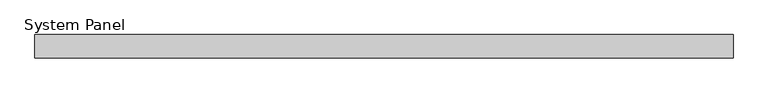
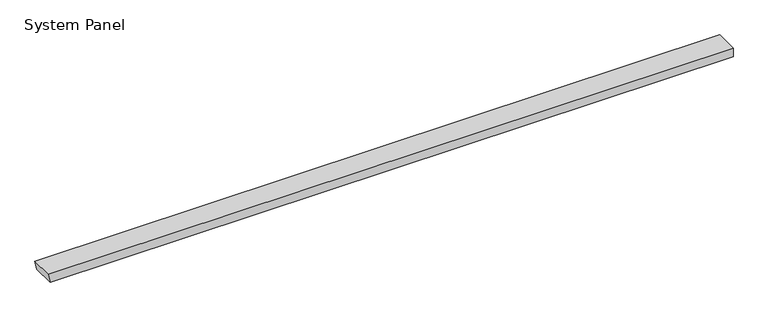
"""IFC4 building model written with IfcOpenShell, lengths in millimetres: plate geometry, System Panel : Equitilt 200mm Horizontal - Plain RHEA - EPS-FR."""

from ifc_helpers import new_model, si_unit, frame, origin, place, context, project, spatial, polyline, outline, extrude, source, transform, mapped, element, save


def system_panel_1f499e5d(model_context):
    return source(origin(), model_context, "Body", "SweptSolid", [
        extrude(outline(polyline([(0.0, -2972.6149856), (0.0, 2990.0), (79.9704237, 2990.0), (79.9704237, -2990.0), (0.0, -2972.6149856)])), frame((0.0, -200.0, 0.0), z_axis=(0.0, 1.0, 0.0), x_axis=(0.0, 0.0, 1.0)), (0.0, 0.0, 1.0), 200.0),
    ])


if __name__ == "__main__":
    model = new_model("IFC4")
    model_context = context("Model", 3, world=origin())
    ifc_project = project(units=[si_unit("LENGTHUNIT", "METRE", prefix="MILLI")], contexts=[model_context])
    site = spatial("IfcSite", under=ifc_project)
    building = spatial("IfcBuilding", under=site)
    placement = place(None, origin())
    system_panel_shape = system_panel_1f499e5d(model_context)
    element("IfcPlate", 1, ObjectType="System Panel : Equitilt 200mm Horizontal - Plain RHEA - EPS-FR", at=placement, inside=building, context=model_context, shape_type="MappedRepresentation", body=[
        mapped(system_panel_shape, transform((0.0, 0.0, 0.0), x_axis=(1.0, 0.0, 0.0), y_axis=(0.0, 1.0, 0.0), z_axis=(0.0, 0.0, 1.0))),
    ])
    save(model, "model.ifc")
